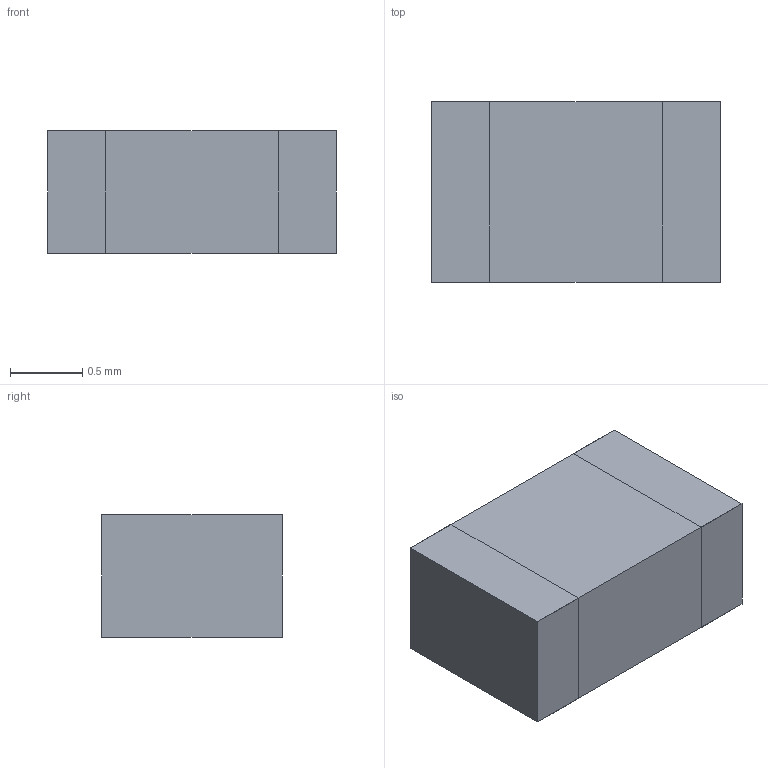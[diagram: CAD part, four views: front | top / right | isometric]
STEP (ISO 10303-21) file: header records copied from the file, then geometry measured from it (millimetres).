
FILE_DESCRIPTION(('Open CASCADE Model'),'2;1');
FILE_NAME('Open CASCADE Shape Model','2026-10-09T15:40:50',('Author'),( 'Open CASCADE'),'Open CASCADE STEP processor 7.7','Open CASCADE 7.7' ,'Unknown');
FILE_SCHEMA(('AUTOMOTIVE_DESIGN { 1 0 10303 214 1 1 1 1 }'));
Length unit declared in the file: millimetre
Products named in the file (3): BLM21PG221SN1D nominal ferrite; Terminal1; Terminal2
Bounding box: 2 x 1.25 x 0.85 mm (x, y, z)
Surface area: 18.1 mm2
Topology: 3 solids, 3 shells, 18 faces, 36 edges, 24 vertices
Faces by surface type: plane 18
Entity records: 986 total; most frequent: CARTESIAN_POINT 151, DIRECTION 146, LINE 108, VECTOR 108, ORIENTED_EDGE 72, PCURVE 72, DEFINITIONAL_REPRESENTATION 72, EDGE_CURVE 36
